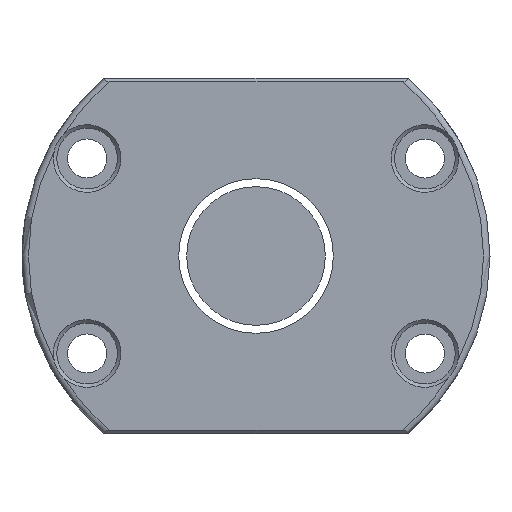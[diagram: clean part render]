
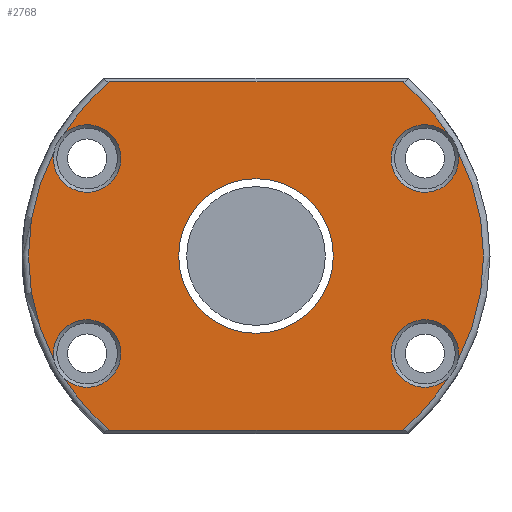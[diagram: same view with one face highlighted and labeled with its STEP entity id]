
A CAD part, left-side view. The second image highlights one B-rep face of the part: STEP entity #2768.
In plain terms, the highlighted planar face has unit normal (-1, 0, 0).
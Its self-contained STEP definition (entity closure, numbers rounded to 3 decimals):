
#34 = AXIS2_PLACEMENT_3D ( 'NONE', #1760, #3601, #573 ) ;
#40 = DIRECTION ( 'NONE',  ( 0., 0., 1. ) ) ;
#84 = EDGE_CURVE ( 'NONE', #760, #2424, #929, .T. ) ;
#100 = CIRCLE ( 'NONE', #34, 17.85 ) ;
#138 = ORIENTED_EDGE ( 'NONE', *, *, #1021, .T. ) ;
#179 = DIRECTION ( 'NONE',  ( 0., 0., 1. ) ) ;
#252 = CARTESIAN_POINT ( 'NONE',  ( -100., -38.971, 22.5 ) ) ;
#283 = DIRECTION ( 'NONE',  ( 0., 0., 1. ) ) ;
#300 = ORIENTED_EDGE ( 'NONE', *, *, #84, .T. ) ;
#309 = DIRECTION ( 'NONE',  ( -1., 0., 0. ) ) ;
#358 = CARTESIAN_POINT ( 'NONE',  ( -100., -38.971, -22.5 ) ) ;
#408 = VERTEX_POINT ( 'NONE', #1419 ) ;
#429 = EDGE_CURVE ( 'NONE', #3722, #2555, #1635, .T. ) ;
#461 = CARTESIAN_POINT ( 'NONE',  ( -100., 38.971, -22.5 ) ) ;
#502 = VERTEX_POINT ( 'NONE', #1512 ) ;
#520 = EDGE_LOOP ( 'NONE', ( #1028 ) ) ;
#524 = DIRECTION ( 'NONE',  ( 0., 0., 1. ) ) ;
#542 = AXIS2_PLACEMENT_3D ( 'NONE', #2534, #2235, #524 ) ;
#573 = DIRECTION ( 'NONE',  ( 0., 0., -1. ) ) ;
#654 = EDGE_CURVE ( 'NONE', #3287, #3897, #2666, .T. ) ;
#760 = VERTEX_POINT ( 'NONE', #2878 ) ;
#802 = CARTESIAN_POINT ( 'NONE',  ( -100., 0., 0. ) ) ;
#808 = AXIS2_PLACEMENT_3D ( 'NONE', #818, #836, #3639 ) ;
#818 = CARTESIAN_POINT ( 'NONE',  ( -100., 54., 0. ) ) ;
#836 = DIRECTION ( 'NONE',  ( -1., 0., 0. ) ) ;
#866 = EDGE_CURVE ( 'NONE', #1808, #1816, #3182, .T. ) ;
#869 = CIRCLE ( 'NONE', #3641, 52.5 ) ;
#928 = DIRECTION ( 'NONE',  ( 1., 0., 0. ) ) ;
#929 = CIRCLE ( 'NONE', #1703, 52.5 ) ;
#934 = EDGE_CURVE ( 'NONE', #2424, #502, #3631, .T. ) ;
#962 = LINE ( 'NONE', #2213, #3555 ) ;
#1021 = EDGE_CURVE ( 'NONE', #2555, #3287, #1941, .T. ) ;
#1028 = ORIENTED_EDGE ( 'NONE', *, *, #2766, .T. ) ;
#1168 = CARTESIAN_POINT ( 'NONE',  ( -100., 44.265, 28.228 ) ) ;
#1183 = AXIS2_PLACEMENT_3D ( 'NONE', #252, #1478, #3589 ) ;
#1203 = EDGE_CURVE ( 'NONE', #408, #1808, #3256, .T. ) ;
#1273 = EDGE_CURVE ( 'NONE', #2009, #408, #2735, .T. ) ;
#1334 = EDGE_CURVE ( 'NONE', #3897, #2009, #2227, .T. ) ;
#1386 = AXIS2_PLACEMENT_3D ( 'NONE', #1391, #2583, #2871 ) ;
#1391 = CARTESIAN_POINT ( 'NONE',  ( -100., 0., 0. ) ) ;
#1396 = DIRECTION ( 'NONE',  ( -1., 0., 0. ) ) ;
#1419 = CARTESIAN_POINT ( 'NONE',  ( -100., 46.579, -24.221 ) ) ;
#1450 = EDGE_CURVE ( 'NONE', #3501, #3722, #3186, .T. ) ;
#1478 = DIRECTION ( 'NONE',  ( 1., 0., 0. ) ) ;
#1487 = ORIENTED_EDGE ( 'NONE', *, *, #2304, .T. ) ;
#1512 = CARTESIAN_POINT ( 'NONE',  ( -100., -46.579, -24.221 ) ) ;
#1635 = CIRCLE ( 'NONE', #3253, 52.5 ) ;
#1679 = ORIENTED_EDGE ( 'NONE', *, *, #3289, .T. ) ;
#1703 = AXIS2_PLACEMENT_3D ( 'NONE', #2631, #1396, #2970 ) ;
#1714 = DIRECTION ( 'NONE',  ( 1., 0., 0. ) ) ;
#1760 = CARTESIAN_POINT ( 'NONE',  ( -100., 0., 0. ) ) ;
#1793 = ORIENTED_EDGE ( 'NONE', *, *, #1334, .T. ) ;
#1808 = VERTEX_POINT ( 'NONE', #3435 ) ;
#1816 = VERTEX_POINT ( 'NONE', #3826 ) ;
#1830 = AXIS2_PLACEMENT_3D ( 'NONE', #3050, #3660, #283 ) ;
#1926 = CARTESIAN_POINT ( 'NONE',  ( -100., 0., -17.85 ) ) ;
#1930 = ORIENTED_EDGE ( 'NONE', *, *, #1273, .T. ) ;
#1941 = LINE ( 'NONE', #2282, #1965 ) ;
#1965 = VECTOR ( 'NONE', #3250, 1000. ) ;
#2009 = VERTEX_POINT ( 'NONE', #3457 ) ;
#2011 = CARTESIAN_POINT ( 'NONE',  ( -100., -46.579, 24.221 ) ) ;
#2030 = AXIS2_PLACEMENT_3D ( 'NONE', #461, #2322, #2303 ) ;
#2090 = FACE_BOUND ( 'NONE', #520, .T. ) ;
#2213 = CARTESIAN_POINT ( 'NONE',  ( -100., -35.143, -40.2 ) ) ;
#2227 = CIRCLE ( 'NONE', #2933, 7.8 ) ;
#2235 = DIRECTION ( 'NONE',  ( -1., 0., 0. ) ) ;
#2272 = ORIENTED_EDGE ( 'NONE', *, *, #1450, .T. ) ;
#2282 = CARTESIAN_POINT ( 'NONE',  ( -100., 35.143, 40.2 ) ) ;
#2303 = DIRECTION ( 'NONE',  ( 0., 0., 1. ) ) ;
#2304 = EDGE_CURVE ( 'NONE', #502, #3501, #869, .T. ) ;
#2322 = DIRECTION ( 'NONE',  ( 1., 0., 0. ) ) ;
#2342 = CARTESIAN_POINT ( 'NONE',  ( -100., 38.971, 22.5 ) ) ;
#2374 = ORIENTED_EDGE ( 'NONE', *, *, #1203, .T. ) ;
#2409 = PLANE ( 'NONE',  #808 ) ;
#2424 = VERTEX_POINT ( 'NONE', #2497 ) ;
#2497 = CARTESIAN_POINT ( 'NONE',  ( -100., -44.265, -28.228 ) ) ;
#2534 = CARTESIAN_POINT ( 'NONE',  ( -100., 0., 0. ) ) ;
#2555 = VERTEX_POINT ( 'NONE', #2921 ) ;
#2557 = CARTESIAN_POINT ( 'NONE',  ( -100., 33.767, 40.2 ) ) ;
#2583 = DIRECTION ( 'NONE',  ( -1., 0., 0. ) ) ;
#2594 = ORIENTED_EDGE ( 'NONE', *, *, #866, .T. ) ;
#2631 = CARTESIAN_POINT ( 'NONE',  ( -100., 0., 0. ) ) ;
#2666 = CIRCLE ( 'NONE', #1830, 52.5 ) ;
#2735 = CIRCLE ( 'NONE', #1386, 52.5 ) ;
#2766 = EDGE_CURVE ( 'NONE', #2817, #2817, #100, .T. ) ;
#2768 = ADVANCED_FACE ( 'NONE', ( #3319, #2090 ), #2409, .T. ) ;
#2817 = VERTEX_POINT ( 'NONE', #1926 ) ;
#2871 = DIRECTION ( 'NONE',  ( 0., 0., 1. ) ) ;
#2878 = CARTESIAN_POINT ( 'NONE',  ( -100., -33.767, -40.2 ) ) ;
#2921 = CARTESIAN_POINT ( 'NONE',  ( -100., -33.767, 40.2 ) ) ;
#2933 = AXIS2_PLACEMENT_3D ( 'NONE', #2342, #1714, #179 ) ;
#2957 = DIRECTION ( 'NONE',  ( -1., 0., 0. ) ) ;
#2970 = DIRECTION ( 'NONE',  ( 0., 0., 1. ) ) ;
#3012 = DIRECTION ( 'NONE',  ( 0., 0., 1. ) ) ;
#3040 = ORIENTED_EDGE ( 'NONE', *, *, #654, .T. ) ;
#3050 = CARTESIAN_POINT ( 'NONE',  ( -100., 0., 0. ) ) ;
#3079 = DIRECTION ( 'NONE',  ( 0., -1., 0. ) ) ;
#3182 = CIRCLE ( 'NONE', #542, 52.5 ) ;
#3186 = CIRCLE ( 'NONE', #1183, 7.8 ) ;
#3250 = DIRECTION ( 'NONE',  ( 0., 1., 0. ) ) ;
#3253 = AXIS2_PLACEMENT_3D ( 'NONE', #802, #2957, #3012 ) ;
#3256 = CIRCLE ( 'NONE', #2030, 7.8 ) ;
#3287 = VERTEX_POINT ( 'NONE', #2557 ) ;
#3289 = EDGE_CURVE ( 'NONE', #1816, #760, #962, .T. ) ;
#3319 = FACE_OUTER_BOUND ( 'NONE', #3676, .T. ) ;
#3361 = DIRECTION ( 'NONE',  ( 0., 0., 1. ) ) ;
#3435 = CARTESIAN_POINT ( 'NONE',  ( -100., 44.265, -28.228 ) ) ;
#3457 = CARTESIAN_POINT ( 'NONE',  ( -100., 46.579, 24.221 ) ) ;
#3501 = VERTEX_POINT ( 'NONE', #2011 ) ;
#3555 = VECTOR ( 'NONE', #3079, 1000. ) ;
#3589 = DIRECTION ( 'NONE',  ( 0., 0., 1. ) ) ;
#3599 = CARTESIAN_POINT ( 'NONE',  ( -100., -44.265, 28.228 ) ) ;
#3601 = DIRECTION ( 'NONE',  ( 1., 0., 0. ) ) ;
#3631 = CIRCLE ( 'NONE', #3701, 7.8 ) ;
#3639 = DIRECTION ( 'NONE',  ( 0., 0., 1. ) ) ;
#3641 = AXIS2_PLACEMENT_3D ( 'NONE', #3688, #309, #3361 ) ;
#3648 = ORIENTED_EDGE ( 'NONE', *, *, #934, .T. ) ;
#3660 = DIRECTION ( 'NONE',  ( -1., 0., 0. ) ) ;
#3676 = EDGE_LOOP ( 'NONE', ( #1679, #300, #3648, #1487, #2272, #3715, #138, #3040, #1793, #1930, #2374, #2594 ) ) ;
#3688 = CARTESIAN_POINT ( 'NONE',  ( -100., 0., 0. ) ) ;
#3701 = AXIS2_PLACEMENT_3D ( 'NONE', #358, #928, #40 ) ;
#3715 = ORIENTED_EDGE ( 'NONE', *, *, #429, .T. ) ;
#3722 = VERTEX_POINT ( 'NONE', #3599 ) ;
#3826 = CARTESIAN_POINT ( 'NONE',  ( -100., 33.767, -40.2 ) ) ;
#3897 = VERTEX_POINT ( 'NONE', #1168 ) ;
